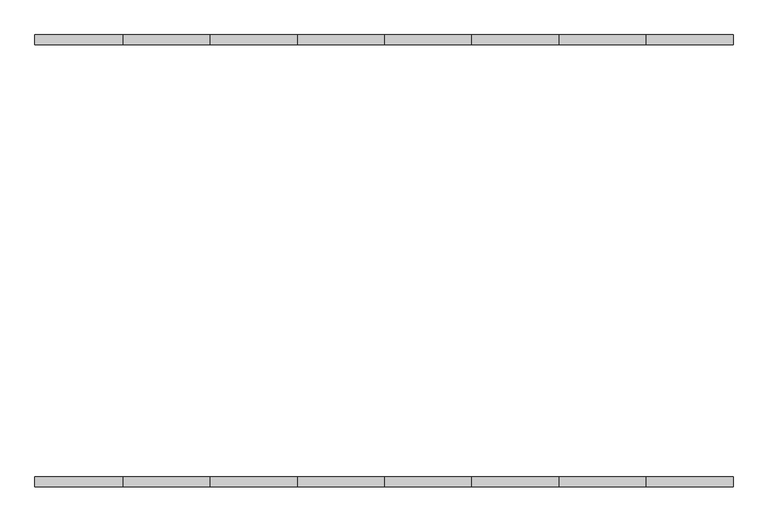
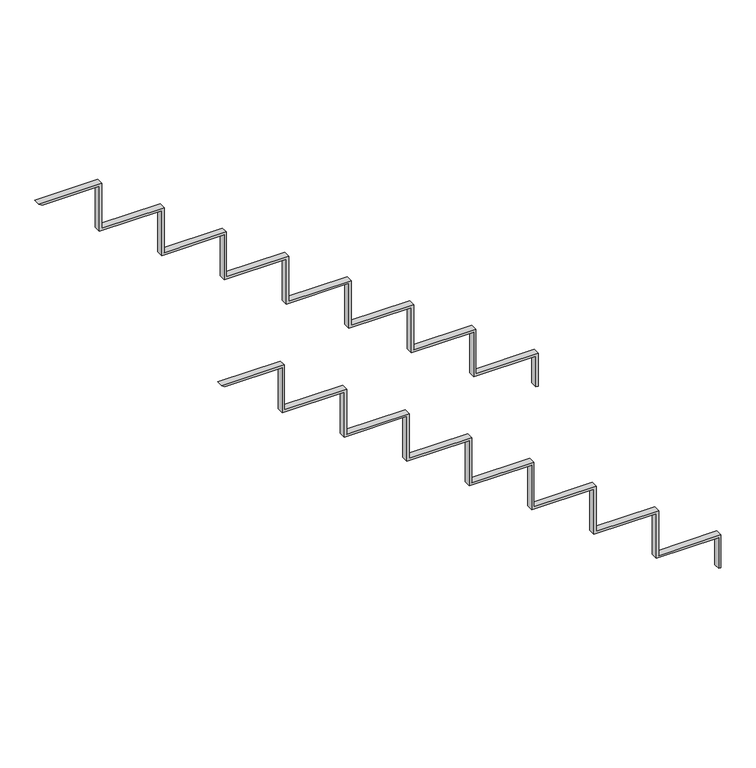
"""IFC4 building model written with IfcOpenShell, lengths in millimetres: beam geometry, Armazón estructural 5 : Armazón estructural 3."""

import ifcopenshell
import ifcopenshell.guid

model = None  # the IFC model being written
_history = None  # IfcOwnerHistory: only IFC2X3 demands one
_inside = {}  # id of a spatial element -> (the spatial element, [elements in it])
_under = {}  # id of a project, library or spatial element -> (it, [spatial elements below it])
_declared = {}  # id of a project -> (the project, [libraries it declares])
_typed = {}  # id of a type object -> (the type object, [elements of that type])
_made_of = {}  # id of a material, layer set ... -> (it, [elements and type objects made of it])


def new_model(schema):
    """Start an empty IFC model of exactly this schema.

    Asked for "IFC4X3", IfcOpenShell would pick the latest addendum, in which some entities
    have other attributes; the version numbers below select the first issue.
    IFC2X3 requires an IfcOwnerHistory on every rooted entity: one is made here for all.
    """
    global model, _history
    if schema == "IFC4X3":
        model = ifcopenshell.file(schema_version=(4, 3, 0, 0))
    else:
        model = ifcopenshell.file(schema=schema)
    _inside.clear()
    _under.clear()
    _declared.clear()
    _typed.clear()
    _made_of.clear()
    _history = None
    if model.schema == "IFC2X3":
        org = make("IfcOrganization", Name="unknown")
        user = make(
            "IfcPersonAndOrganization",
            ThePerson=make("IfcPerson", FamilyName="unknown"),
            TheOrganization=org,
        )
        app = make(
            "IfcApplication",
            ApplicationDeveloper=org,
            Version="unknown",
            ApplicationFullName="unknown",
            ApplicationIdentifier="unknown",
        )
        _history = make(
            "IfcOwnerHistory",
            OwningUser=user,
            OwningApplication=app,
            ChangeAction="ADDED",
            CreationDate=0,
        )
    return model


def make(cls, **values):
    """One entity of the class cls with the attributes given. An attribute that is None is left unset."""
    return model.create_entity(
        cls, **{name: value for name, value in values.items() if value is not None}
    )


def rooted(cls, **values):
    """An entity with a GlobalId (a new one), such as an element, a storey or a relation."""
    return make(cls, GlobalId=ifcopenshell.guid.new(), OwnerHistory=_history, **values)


def si_unit(unit_type, name, prefix=None):
    """IfcSIUnit, for example si_unit("LENGTHUNIT", "METRE", prefix="MILLI")."""
    return make("IfcSIUnit", UnitType=unit_type, Prefix=prefix, Name=name)


def assignment(units):
    """IfcUnitAssignment: the units of a project."""
    return None if units is None else make("IfcUnitAssignment", Units=units)


def point(xyz):
    """IfcCartesianPoint."""
    return None if xyz is None else make("IfcCartesianPoint", Coordinates=xyz)


def direction(xyz):
    """IfcDirection."""
    return None if xyz is None else make("IfcDirection", DirectionRatios=xyz)


def frame(location, z_axis=None, x_axis=None):
    """IfcAxis2Placement3D, a coordinate frame: its origin and axes. An axis left out is left unset."""
    return make(
        "IfcAxis2Placement3D",
        Location=point(location),
        Axis=direction(z_axis),
        RefDirection=direction(x_axis),
    )


def origin():
    """The frame at (0, 0, 0) with its axes left unset."""
    return frame((0.0, 0.0, 0.0))


def place(relative_to, where):
    """IfcLocalPlacement: puts the frame where relative to a parent placement (None: the world)."""
    return make(
        "IfcLocalPlacement", PlacementRelTo=relative_to, RelativePlacement=where
    )


def context(
    kind, dimensions, precision=None, world=None, true_north=None, identifier=None
):
    """IfcGeometricRepresentationContext, for example the 3D "Model" context."""
    return make(
        "IfcGeometricRepresentationContext",
        ContextIdentifier=identifier,
        ContextType=kind,
        CoordinateSpaceDimension=dimensions,
        Precision=precision,
        WorldCoordinateSystem=world,
        TrueNorth=true_north,
    )


def project(units=None, contexts=None):
    """IfcProject with its units and contexts."""
    return rooted(
        "IfcProject",
        Name="project",
        RepresentationContexts=contexts,
        UnitsInContext=assignment(units),
    )


def spatial(cls, under=None, at=None, **own):
    """A site, building, storey or space (cls), placed at a placement, below another one or the project."""
    s = rooted(cls, ObjectPlacement=at, **own)
    if under is not None:
        _under.setdefault(under.id(), (under, []))[1].append(s)
    return s


def polyline(points):
    """IfcPolyline through the points."""
    return make("IfcPolyline", Points=[point(p) for p in points])


def outline(outer, holes=None, kind="AREA"):
    """IfcArbitraryClosedProfileDef: a profile drawn as a closed curve; with holes, ...WithVoids."""
    if holes is None:
        return make("IfcArbitraryClosedProfileDef", ProfileType=kind, OuterCurve=outer)
    return make(
        "IfcArbitraryProfileDefWithVoids",
        ProfileType=kind,
        OuterCurve=outer,
        InnerCurves=holes,
    )


def extrude(swept, where, along, depth):
    """IfcExtrudedAreaSolid: the profile swept, set in the frame where, extruded along a direction by depth."""
    return make(
        "IfcExtrudedAreaSolid",
        SweptArea=swept,
        Position=where,
        ExtrudedDirection=direction(along),
        Depth=depth,
    )


def shape(context_of_items, identifier, shape_type, items):
    """IfcShapeRepresentation: the items that make up one representation, for example the "Body"."""
    return make(
        "IfcShapeRepresentation",
        ContextOfItems=context_of_items,
        RepresentationIdentifier=identifier,
        RepresentationType=shape_type,
        Items=items,
    )


def source(mapping_origin, context_of_items, identifier, shape_type, items):
    """IfcRepresentationMap: a shape defined once, which mapped items show again and again."""
    return make(
        "IfcRepresentationMap",
        MappingOrigin=mapping_origin,
        MappedRepresentation=shape(context_of_items, identifier, shape_type, items),
    )


def transform(
    local_origin,
    x_axis=None,
    y_axis=None,
    z_axis=None,
    scale=None,
    scale2=None,
    scale3=None,
    uniform=True,
):
    """IfcCartesianTransformationOperator3D, or its non-uniform kind. x_axis, y_axis, z_axis: its Axis1, 2, 3."""
    if uniform:
        return make(
            "IfcCartesianTransformationOperator3D",
            Axis1=direction(x_axis),
            Axis2=direction(y_axis),
            LocalOrigin=point(local_origin),
            Scale=scale,
            Axis3=direction(z_axis),
        )
    return make(
        "IfcCartesianTransformationOperator3DnonUniform",
        Axis1=direction(x_axis),
        Axis2=direction(y_axis),
        LocalOrigin=point(local_origin),
        Scale=scale,
        Axis3=direction(z_axis),
        Scale2=scale2,
        Scale3=scale3,
    )


def mapped(mapping_source, mapping_target):
    """IfcMappedItem: shows the shape of a source again, moved by a transform."""
    return make(
        "IfcMappedItem", MappingSource=mapping_source, MappingTarget=mapping_target
    )


def made_of(thing, what):
    """Note that an element or type object is made of a material, layer set ...; save() writes the relation."""
    if what is not None:
        _made_of.setdefault(what.id(), (what, []))[1].append(thing)
    return thing


def element(
    cls,
    number,
    at=None,
    inside=None,
    cuts=None,
    type_object=None,
    material=None,
    context=None,
    identifier="Body",
    shape_type=None,
    held_by="IfcProductDefinitionShape",
    body=None,
    shapes=None,
    **own,
):
    """One element of the class cls, such as IfcWall. Its Tag is "e" and its number.

    at: its placement. inside: the storey or other place that contains it. cuts: it is an
    opening in that element (IfcRelVoidsElement). A single representation is given by context,
    identifier, shape_type and body (its items); several are given by shapes. held_by: the class
    of the entity that holds the representations. save() writes the other relations.
    """
    e = rooted(cls, Tag="e%d" % number, ObjectPlacement=at, **own)
    if body is not None:
        shapes = [shape(context, identifier, shape_type, body)]
    if shapes is not None:
        e.Representation = make(held_by, Representations=shapes)
    if inside is not None:
        _inside.setdefault(inside.id(), (inside, []))[1].append(e)
    if cuts is not None:
        rooted(
            "IfcRelVoidsElement", RelatingBuildingElement=cuts, RelatedOpeningElement=e
        )
    if type_object is not None:
        _typed.setdefault(type_object.id(), (type_object, []))[1].append(e)
    return made_of(e, material)


def aggregate(whole, parts):
    """IfcRelAggregates: a whole, such as a stair, and the parts it consists of."""
    return rooted("IfcRelAggregates", RelatingObject=whole, RelatedObjects=parts)


def save(model, path):
    """Write the relations noted so far, then the file.

    IfcRelAggregates (storeys below a building ...), IfcRelContainedInSpatialStructure (elements
    in a storey), IfcRelDefinesByType, IfcRelAssociatesMaterial and IfcRelDeclares: one each for
    every whole, place, type object, material and project.
    """
    for whole, parts in _under.values():
        aggregate(whole, parts)
    for where, things in _inside.values():
        rooted(
            "IfcRelContainedInSpatialStructure",
            RelatedElements=things,
            RelatingStructure=where,
        )
    for kind, things in _typed.values():
        rooted("IfcRelDefinesByType", RelatedObjects=things, RelatingType=kind)
    for what, things in _made_of.values():
        rooted("IfcRelAssociatesMaterial", RelatedObjects=things, RelatingMaterial=what)
    for by, libraries in _declared.values():
        rooted("IfcRelDeclares", RelatingContext=by, RelatedDefinitions=libraries)
    model.write(path)


def beam_4bc0b801(model_context):
    return source(origin(), model_context, "Body", "SweptSolid", [
        extrude(outline(polyline([(1594.8, 7596.5229842), (1584.8, 7610.5322321), (1584.8, 7858.2897792), (1379.2, 7858.2897792), (1379.2, 8128.2897792), (1173.6, 8128.2897792), (1173.6, 8398.2897792), (968.0, 8398.2897792), (968.0, 8668.2897792), (762.4, 8668.2897792), (762.4, 8938.2897792), (556.8, 8938.2897792), (556.8, 9208.2897792), (351.2, 9208.2897792), (351.2, 9478.2897792), (145.6, 9478.2897792), (145.6, 9748.2897792), (5.2017168, 9748.2897792), (5.2017168, 9758.2897792), (155.6, 9758.2897792), (155.6, 9488.2897792), (361.2, 9488.2897792), (361.2, 9218.2897792), (566.8, 9218.2897792), (566.8, 8948.2897792), (772.4, 8948.2897792), (772.4, 8678.2897792), (978.0, 8678.2897792), (978.0, 8408.2897792), (1183.6, 8408.2897792), (1183.6, 8138.2897792), (1389.2, 8138.2897792), (1389.2, 7868.2897792), (1594.8, 7868.2897792), (1594.8, 7596.5229842)])), frame((0.0, 4844.6072273, 0.0), z_axis=(0.0, 1.0, 0.0), x_axis=(0.0, 0.0, 1.0)), (0.0, 0.0, 1.0), 30.0),
        extrude(outline(polyline([(1594.8, 7596.5229842), (1584.8, 7610.5322321), (1584.8, 7858.2897792), (1379.2, 7858.2897792), (1379.2, 8128.2897792), (1173.6, 8128.2897792), (1173.6, 8398.2897792), (968.0, 8398.2897792), (968.0, 8668.2897792), (762.4, 8668.2897792), (762.4, 8938.2897792), (556.8, 8938.2897792), (556.8, 9208.2897792), (351.2, 9208.2897792), (351.2, 9478.2897792), (145.6, 9478.2897792), (145.6, 9748.2897792), (5.2017168, 9748.2897792), (5.2017168, 9758.2897792), (155.6, 9758.2897792), (155.6, 9488.2897792), (361.2, 9488.2897792), (361.2, 9218.2897792), (566.8, 9218.2897792), (566.8, 8948.2897792), (772.4, 8948.2897792), (772.4, 8678.2897792), (978.0, 8678.2897792), (978.0, 8408.2897792), (1183.6, 8408.2897792), (1183.6, 8138.2897792), (1389.2, 8138.2897792), (1389.2, 7868.2897792), (1594.8, 7868.2897792), (1594.8, 7596.5229842)])), frame((0.0, 6214.6250843, 0.0), z_axis=(0.0, 1.0, 0.0), x_axis=(0.0, 0.0, 1.0)), (0.0, 0.0, 1.0), 30.0),
    ])


if __name__ == "__main__":
    model = new_model("IFC4")
    model_context = context("Model", 3, world=origin())
    ifc_project = project(units=[si_unit("LENGTHUNIT", "METRE", prefix="MILLI")], contexts=[model_context])
    site = spatial("IfcSite", under=ifc_project)
    building = spatial("IfcBuilding", under=site)
    placement = place(None, origin())
    beam_shape = beam_4bc0b801(model_context)
    element("IfcBeam", 1, ObjectType="Armazón estructural 5 : Armazón estructural 3", at=placement, inside=building, context=model_context, shape_type="MappedRepresentation", body=[
        mapped(beam_shape, transform((0.0, 0.0, 0.0), x_axis=(1.0, 0.0, 0.0), y_axis=(0.0, 1.0, 0.0), z_axis=(0.0, 0.0, 1.0))),
    ])
    save(model, "model.ifc")
